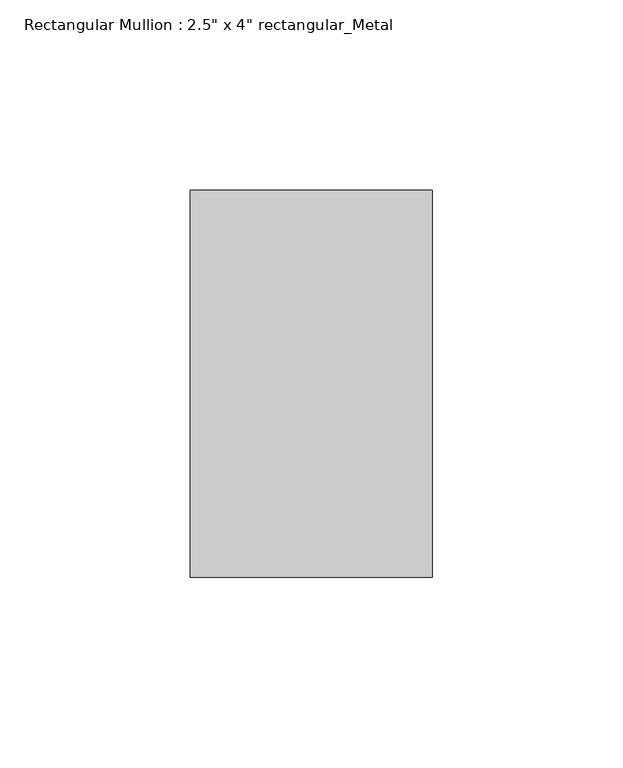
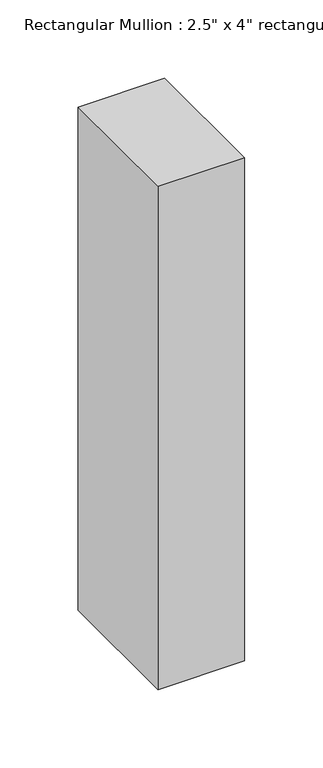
"""IFC4 building model written with IfcOpenShell, lengths in millimetres: member geometry."""

import ifcopenshell
import ifcopenshell.guid

model = None  # the IFC model being written
_history = None  # IfcOwnerHistory: only IFC2X3 demands one
_inside = {}  # id of a spatial element -> (the spatial element, [elements in it])
_under = {}  # id of a project, library or spatial element -> (it, [spatial elements below it])
_declared = {}  # id of a project -> (the project, [libraries it declares])
_typed = {}  # id of a type object -> (the type object, [elements of that type])
_made_of = {}  # id of a material, layer set ... -> (it, [elements and type objects made of it])


def new_model(schema):
    """Start an empty IFC model of exactly this schema.

    Asked for "IFC4X3", IfcOpenShell would pick the latest addendum, in which some entities
    have other attributes; the version numbers below select the first issue.
    IFC2X3 requires an IfcOwnerHistory on every rooted entity: one is made here for all.
    """
    global model, _history
    if schema == "IFC4X3":
        model = ifcopenshell.file(schema_version=(4, 3, 0, 0))
    else:
        model = ifcopenshell.file(schema=schema)
    _inside.clear()
    _under.clear()
    _declared.clear()
    _typed.clear()
    _made_of.clear()
    _history = None
    if model.schema == "IFC2X3":
        org = make("IfcOrganization", Name="unknown")
        user = make(
            "IfcPersonAndOrganization",
            ThePerson=make("IfcPerson", FamilyName="unknown"),
            TheOrganization=org,
        )
        app = make(
            "IfcApplication",
            ApplicationDeveloper=org,
            Version="unknown",
            ApplicationFullName="unknown",
            ApplicationIdentifier="unknown",
        )
        _history = make(
            "IfcOwnerHistory",
            OwningUser=user,
            OwningApplication=app,
            ChangeAction="ADDED",
            CreationDate=0,
        )
    return model


def make(cls, **values):
    """One entity of the class cls with the attributes given. An attribute that is None is left unset."""
    return model.create_entity(
        cls, **{name: value for name, value in values.items() if value is not None}
    )


def rooted(cls, **values):
    """An entity with a GlobalId (a new one), such as an element, a storey or a relation."""
    return make(cls, GlobalId=ifcopenshell.guid.new(), OwnerHistory=_history, **values)


def si_unit(unit_type, name, prefix=None):
    """IfcSIUnit, for example si_unit("LENGTHUNIT", "METRE", prefix="MILLI")."""
    return make("IfcSIUnit", UnitType=unit_type, Prefix=prefix, Name=name)


def assignment(units):
    """IfcUnitAssignment: the units of a project."""
    return None if units is None else make("IfcUnitAssignment", Units=units)


def point(xyz):
    """IfcCartesianPoint."""
    return None if xyz is None else make("IfcCartesianPoint", Coordinates=xyz)


def direction(xyz):
    """IfcDirection."""
    return None if xyz is None else make("IfcDirection", DirectionRatios=xyz)


def frame(location, z_axis=None, x_axis=None):
    """IfcAxis2Placement3D, a coordinate frame: its origin and axes. An axis left out is left unset."""
    return make(
        "IfcAxis2Placement3D",
        Location=point(location),
        Axis=direction(z_axis),
        RefDirection=direction(x_axis),
    )


def origin():
    """The frame at (0, 0, 0) with its axes left unset."""
    return frame((0.0, 0.0, 0.0))


def place(relative_to, where):
    """IfcLocalPlacement: puts the frame where relative to a parent placement (None: the world)."""
    return make(
        "IfcLocalPlacement", PlacementRelTo=relative_to, RelativePlacement=where
    )


def context(
    kind, dimensions, precision=None, world=None, true_north=None, identifier=None
):
    """IfcGeometricRepresentationContext, for example the 3D "Model" context."""
    return make(
        "IfcGeometricRepresentationContext",
        ContextIdentifier=identifier,
        ContextType=kind,
        CoordinateSpaceDimension=dimensions,
        Precision=precision,
        WorldCoordinateSystem=world,
        TrueNorth=true_north,
    )


def project(units=None, contexts=None):
    """IfcProject with its units and contexts."""
    return rooted(
        "IfcProject",
        Name="project",
        RepresentationContexts=contexts,
        UnitsInContext=assignment(units),
    )


def spatial(cls, under=None, at=None, **own):
    """A site, building, storey or space (cls), placed at a placement, below another one or the project."""
    s = rooted(cls, ObjectPlacement=at, **own)
    if under is not None:
        _under.setdefault(under.id(), (under, []))[1].append(s)
    return s


def polyline(points):
    """IfcPolyline through the points."""
    return make("IfcPolyline", Points=[point(p) for p in points])


def outline(outer, holes=None, kind="AREA"):
    """IfcArbitraryClosedProfileDef: a profile drawn as a closed curve; with holes, ...WithVoids."""
    if holes is None:
        return make("IfcArbitraryClosedProfileDef", ProfileType=kind, OuterCurve=outer)
    return make(
        "IfcArbitraryProfileDefWithVoids",
        ProfileType=kind,
        OuterCurve=outer,
        InnerCurves=holes,
    )


def extrude(swept, where, along, depth):
    """IfcExtrudedAreaSolid: the profile swept, set in the frame where, extruded along a direction by depth."""
    return make(
        "IfcExtrudedAreaSolid",
        SweptArea=swept,
        Position=where,
        ExtrudedDirection=direction(along),
        Depth=depth,
    )


def shape(context_of_items, identifier, shape_type, items):
    """IfcShapeRepresentation: the items that make up one representation, for example the "Body"."""
    return make(
        "IfcShapeRepresentation",
        ContextOfItems=context_of_items,
        RepresentationIdentifier=identifier,
        RepresentationType=shape_type,
        Items=items,
    )


def source(mapping_origin, context_of_items, identifier, shape_type, items):
    """IfcRepresentationMap: a shape defined once, which mapped items show again and again."""
    return make(
        "IfcRepresentationMap",
        MappingOrigin=mapping_origin,
        MappedRepresentation=shape(context_of_items, identifier, shape_type, items),
    )


def transform(
    local_origin,
    x_axis=None,
    y_axis=None,
    z_axis=None,
    scale=None,
    scale2=None,
    scale3=None,
    uniform=True,
):
    """IfcCartesianTransformationOperator3D, or its non-uniform kind. x_axis, y_axis, z_axis: its Axis1, 2, 3."""
    if uniform:
        return make(
            "IfcCartesianTransformationOperator3D",
            Axis1=direction(x_axis),
            Axis2=direction(y_axis),
            LocalOrigin=point(local_origin),
            Scale=scale,
            Axis3=direction(z_axis),
        )
    return make(
        "IfcCartesianTransformationOperator3DnonUniform",
        Axis1=direction(x_axis),
        Axis2=direction(y_axis),
        LocalOrigin=point(local_origin),
        Scale=scale,
        Axis3=direction(z_axis),
        Scale2=scale2,
        Scale3=scale3,
    )


def mapped(mapping_source, mapping_target):
    """IfcMappedItem: shows the shape of a source again, moved by a transform."""
    return make(
        "IfcMappedItem", MappingSource=mapping_source, MappingTarget=mapping_target
    )


def made_of(thing, what):
    """Note that an element or type object is made of a material, layer set ...; save() writes the relation."""
    if what is not None:
        _made_of.setdefault(what.id(), (what, []))[1].append(thing)
    return thing


def element(
    cls,
    number,
    at=None,
    inside=None,
    cuts=None,
    type_object=None,
    material=None,
    context=None,
    identifier="Body",
    shape_type=None,
    held_by="IfcProductDefinitionShape",
    body=None,
    shapes=None,
    **own,
):
    """One element of the class cls, such as IfcWall. Its Tag is "e" and its number.

    at: its placement. inside: the storey or other place that contains it. cuts: it is an
    opening in that element (IfcRelVoidsElement). A single representation is given by context,
    identifier, shape_type and body (its items); several are given by shapes. held_by: the class
    of the entity that holds the representations. save() writes the other relations.
    """
    e = rooted(cls, Tag="e%d" % number, ObjectPlacement=at, **own)
    if body is not None:
        shapes = [shape(context, identifier, shape_type, body)]
    if shapes is not None:
        e.Representation = make(held_by, Representations=shapes)
    if inside is not None:
        _inside.setdefault(inside.id(), (inside, []))[1].append(e)
    if cuts is not None:
        rooted(
            "IfcRelVoidsElement", RelatingBuildingElement=cuts, RelatedOpeningElement=e
        )
    if type_object is not None:
        _typed.setdefault(type_object.id(), (type_object, []))[1].append(e)
    return made_of(e, material)


def aggregate(whole, parts):
    """IfcRelAggregates: a whole, such as a stair, and the parts it consists of."""
    return rooted("IfcRelAggregates", RelatingObject=whole, RelatedObjects=parts)


def save(model, path):
    """Write the relations noted so far, then the file.

    IfcRelAggregates (storeys below a building ...), IfcRelContainedInSpatialStructure (elements
    in a storey), IfcRelDefinesByType, IfcRelAssociatesMaterial and IfcRelDeclares: one each for
    every whole, place, type object, material and project.
    """
    for whole, parts in _under.values():
        aggregate(whole, parts)
    for where, things in _inside.values():
        rooted(
            "IfcRelContainedInSpatialStructure",
            RelatedElements=things,
            RelatingStructure=where,
        )
    for kind, things in _typed.values():
        rooted("IfcRelDefinesByType", RelatedObjects=things, RelatingType=kind)
    for what, things in _made_of.values():
        rooted("IfcRelAssociatesMaterial", RelatedObjects=things, RelatingMaterial=what)
    for by, libraries in _declared.values():
        rooted("IfcRelDeclares", RelatingContext=by, RelatedDefinitions=libraries)
    model.write(path)


def member_c43bde57(model_context):
    return source(origin(), model_context, "Body", "SweptSolid", [
        extrude(outline(polyline([(0.0, 50.8), (0.0, -50.8), (-63.5, -50.8), (-63.5, 50.8), (0.0, 50.8)])), frame((0.0, 0.0, -391.264361), z_axis=(0.0, 0.0, 1.0), x_axis=(1.0, 0.0, 0.0)), (0.0, 0.0, 1.0), 391.264361),
    ])


if __name__ == "__main__":
    model = new_model("IFC4")
    model_context = context("Model", 3, world=origin())
    ifc_project = project(units=[si_unit("LENGTHUNIT", "METRE", prefix="MILLI")], contexts=[model_context])
    site = spatial("IfcSite", under=ifc_project)
    building = spatial("IfcBuilding", under=site)
    placement = place(None, origin())
    member_shape = member_c43bde57(model_context)
    element("IfcMember", 1, ObjectType="Rectangular Mullion : 2.5\" x 4\" rectangular_Metal", at=placement, inside=building, context=model_context, shape_type="MappedRepresentation", body=[
        mapped(member_shape, transform((0.0, 0.0, 0.0), x_axis=(1.0, 0.0, 0.0), y_axis=(0.0, 1.0, 0.0), z_axis=(0.0, 0.0, 1.0))),
    ])
    save(model, "model.ifc")
